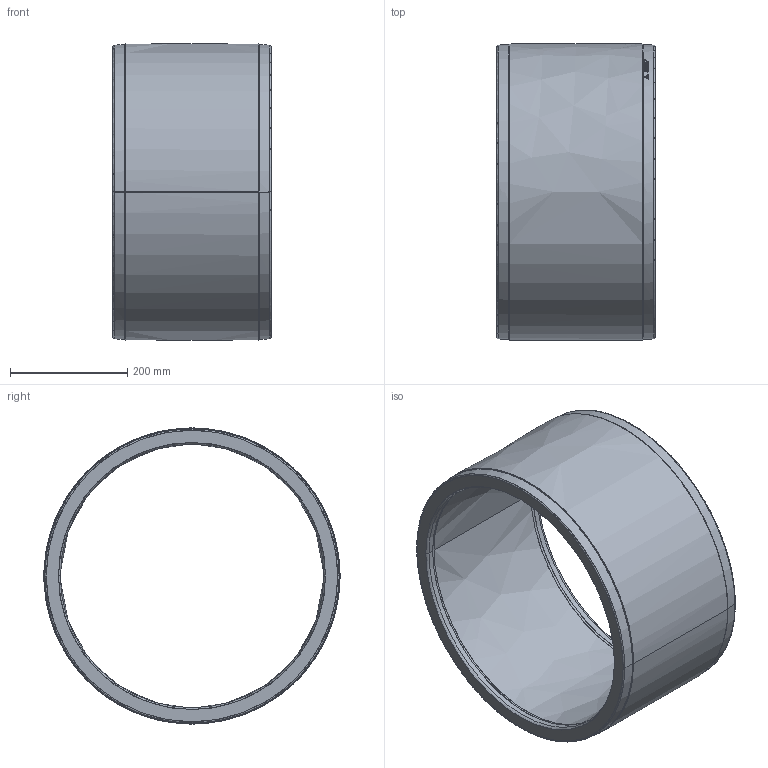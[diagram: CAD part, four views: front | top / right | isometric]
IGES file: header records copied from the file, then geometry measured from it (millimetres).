
Start section:  PTC IGES file: am_d450.igs
Global section: file name: am_d450.igs; native system: Pro/ENGINEER by Parametric Technology Corporation; preprocessor: 2011490; author: mtunjic; organization: Unknown; date: 20130729.162949; units: millimetre
Bounding box: 270 x 506 x 506 mm (x, y, z)
Surface area: 885732.1 mm2 (no closed solid volume)
Topology: 0 solids, 0 shells, 155 faces, 776 edges, 776 vertices
Faces by surface type: bspline 155
